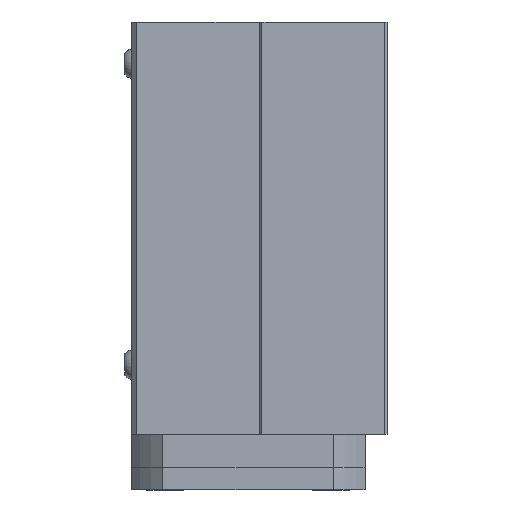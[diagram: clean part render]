
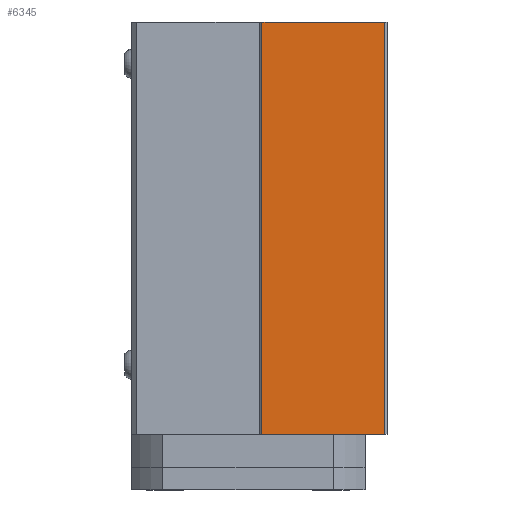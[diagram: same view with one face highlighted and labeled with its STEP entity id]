
A CAD part, left-side view. The second image highlights one B-rep face of the part: STEP entity #6345.
In plain terms, the highlighted planar face has unit normal (-1, 0, 0).
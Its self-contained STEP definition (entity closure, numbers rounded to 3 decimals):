
#118 = VECTOR ( 'NONE', #10664, 1000. ) ;
#564 = DIRECTION ( 'NONE',  ( 0., 0., 1. ) ) ;
#1444 = ORIENTED_EDGE ( 'NONE', *, *, #9629, .F. ) ;
#1695 = VERTEX_POINT ( 'NONE', #6427 ) ;
#2075 = DIRECTION ( 'NONE',  ( 0., 0., 1. ) ) ;
#3460 = CARTESIAN_POINT ( 'NONE',  ( -35., -24.5, -74. ) ) ;
#5692 = PLANE ( 'NONE',  #13673 ) ;
#5937 = EDGE_LOOP ( 'NONE', ( #1444, #9486, #9256, #9605 ) ) ;
#5984 = DIRECTION ( 'NONE',  ( -1., 0., 0. ) ) ;
#6345 = ADVANCED_FACE ( 'NONE', ( #12770 ), #5692, .T. ) ;
#6427 = CARTESIAN_POINT ( 'NONE',  ( -35., -24.5, 0. ) ) ;
#7856 = VERTEX_POINT ( 'NONE', #11303 ) ;
#8373 = DIRECTION ( 'NONE',  ( 0., 0., 1. ) ) ;
#8406 = CARTESIAN_POINT ( 'NONE',  ( -35., -2.5, -74. ) ) ;
#8842 = VECTOR ( 'NONE', #2075, 1000. ) ;
#9256 = ORIENTED_EDGE ( 'NONE', *, *, #12349, .T. ) ;
#9474 = LINE ( 'NONE', #13073, #8842 ) ;
#9486 = ORIENTED_EDGE ( 'NONE', *, *, #12057, .F. ) ;
#9577 = LINE ( 'NONE', #3460, #12569 ) ;
#9605 = ORIENTED_EDGE ( 'NONE', *, *, #9764, .T. ) ;
#9629 = EDGE_CURVE ( 'NONE', #15658, #1695, #13089, .T. ) ;
#9764 = EDGE_CURVE ( 'NONE', #12462, #1695, #9577, .T. ) ;
#10639 = CARTESIAN_POINT ( 'NONE',  ( -35., -2.5, 0. ) ) ;
#10664 = DIRECTION ( 'NONE',  ( 0., -1., 0. ) ) ;
#11303 = CARTESIAN_POINT ( 'NONE',  ( -35., -2.5, -74. ) ) ;
#11560 = LINE ( 'NONE', #13037, #118 ) ;
#12057 = EDGE_CURVE ( 'NONE', #7856, #15658, #9474, .T. ) ;
#12170 = CARTESIAN_POINT ( 'NONE',  ( -35., -24.5, -74. ) ) ;
#12349 = EDGE_CURVE ( 'NONE', #7856, #12462, #11560, .T. ) ;
#12462 = VERTEX_POINT ( 'NONE', #12170 ) ;
#12569 = VECTOR ( 'NONE', #8373, 1000. ) ;
#12770 = FACE_OUTER_BOUND ( 'NONE', #5937, .T. ) ;
#13037 = CARTESIAN_POINT ( 'NONE',  ( -35., -2.5, -74. ) ) ;
#13073 = CARTESIAN_POINT ( 'NONE',  ( -35., -2.5, -74. ) ) ;
#13089 = LINE ( 'NONE', #10639, #13827 ) ;
#13673 = AXIS2_PLACEMENT_3D ( 'NONE', #8406, #5984, #564 ) ;
#13827 = VECTOR ( 'NONE', #15519, 1000. ) ;
#14979 = CARTESIAN_POINT ( 'NONE',  ( -35., -2.5, 0. ) ) ;
#15519 = DIRECTION ( 'NONE',  ( 0., -1., 0. ) ) ;
#15658 = VERTEX_POINT ( 'NONE', #14979 ) ;
